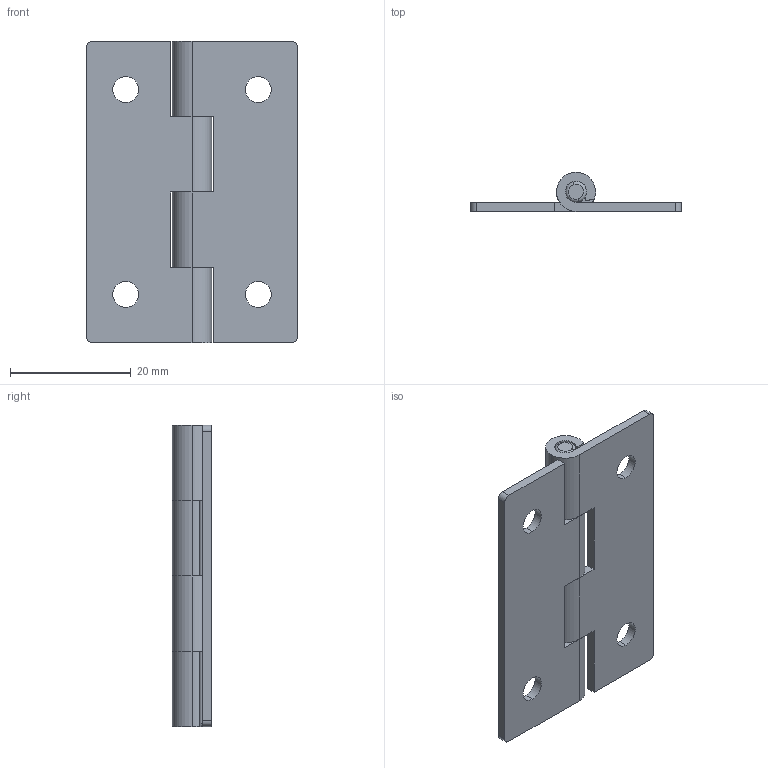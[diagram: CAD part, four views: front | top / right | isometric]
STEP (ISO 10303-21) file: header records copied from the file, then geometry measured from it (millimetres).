
FILE_DESCRIPTION (( 'STEP AP214' ), '1' );
FILE_NAME ('SK2-072-5.STEP', '2020-04-14T02:29:44', ( 'admin' ), ( 'Microsoft' ), 'SwSTEP 2.0', 'SolidWorks 2018', '' );
FILE_SCHEMA (( 'AUTOMOTIVE_DESIGN' ));
Length unit declared in the file: millimetre
Products named in the file (3): 2-072-5-F1; SK2-072-5; 2-072-5-F2
Assembly tree (3 placements, depth 2):
  SK2-072-5
    2-072-5-F1  x2
    2-072-5-F2
Bounding box: 35 x 6.5 x 50 mm (x, y, z)
Volume: 3741.7 mm3; surface area: 5576.4 mm2
Topology: 3 solids, 3 shells, 72 faces, 194 edges, 128 vertices
Faces by surface type: cylinder 38, plane 30, torus 4
Entity records: 1370 total; most frequent: DIRECTION 244, CARTESIAN_POINT 218, ORIENTED_EDGE 208, EDGE_CURVE 104, AXIS2_PLACEMENT_3D 94, VERTEX_POINT 68, VECTOR 56, LINE 56
